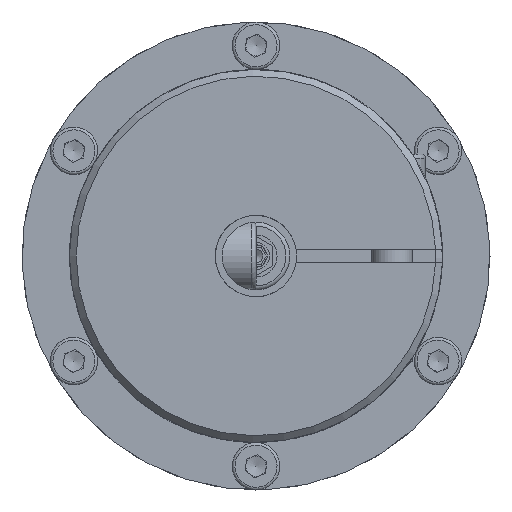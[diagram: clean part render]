
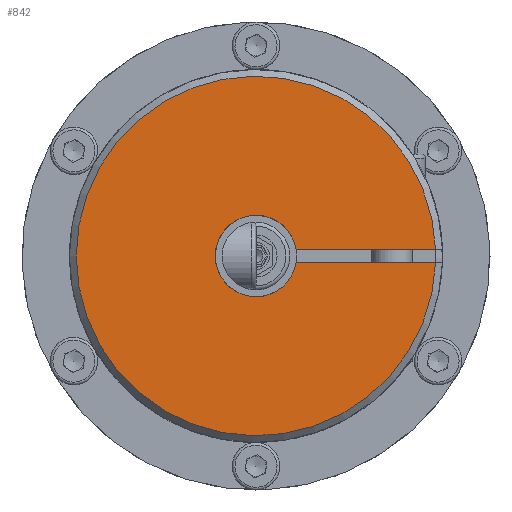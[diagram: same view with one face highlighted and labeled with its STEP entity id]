
A CAD part, left-side view. The second image highlights one B-rep face of the part: STEP entity #842.
In plain terms, the highlighted planar face has unit normal (-1, 0, 0).
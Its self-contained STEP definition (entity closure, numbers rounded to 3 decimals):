
#842 = ADVANCED_FACE( '', ( #1697 ), #1698, .F. );
#1697 = FACE_OUTER_BOUND( '', #2870, .T. );
#1698 = PLANE( '', #2871 );
#2870 = EDGE_LOOP( '', ( #5299, #5300, #5301, #5302 ) );
#2871 = AXIS2_PLACEMENT_3D( '', #5303, #5304, #5305 );
#5299 = ORIENTED_EDGE( '', *, *, #7815, .F. );
#5300 = ORIENTED_EDGE( '', *, *, #7814, .T. );
#5301 = ORIENTED_EDGE( '', *, *, #7721, .F. );
#5302 = ORIENTED_EDGE( '', *, *, #7724, .F. );
#5303 = CARTESIAN_POINT( '', ( -30., 0., 26.5 ) );
#5304 = DIRECTION( '', ( 1., 0., 0. ) );
#5305 = DIRECTION( '', ( 0., 0., -1. ) );
#7721 = EDGE_CURVE( '', #9255, #9257, #9258, .T. );
#7724 = EDGE_CURVE( '', #9260, #9255, #9263, .T. );
#7814 = EDGE_CURVE( '', #9408, #9257, #9410, .T. );
#7815 = EDGE_CURVE( '', #9408, #9260, #9411, .T. );
#9255 = VERTEX_POINT( '', #13164 );
#9257 = VERTEX_POINT( '', #13167 );
#9258 = LINE( '', #13168, #13169 );
#9260 = VERTEX_POINT( '', #13174 );
#9263 = CIRCLE( '', #13178, 6. );
#9408 = VERTEX_POINT( '', #13412 );
#9410 = CIRCLE( '', #13417, 26.5 );
#9411 = LINE( '', #13418, #13419 );
#13164 = CARTESIAN_POINT( '', ( -30., -5.083, -3.188 ) );
#13167 = CARTESIAN_POINT( '', ( -30., -24.083, -11.058 ) );
#13168 = CARTESIAN_POINT( '', ( -30., 9.752, 2.957 ) );
#13169 = VECTOR( '', #15699, 1000. );
#13174 = CARTESIAN_POINT( '', ( -30., -5.848, -1.34 ) );
#13178 = AXIS2_PLACEMENT_3D( '', #15701, #15702, #15703 );
#13412 = CARTESIAN_POINT( '', ( -30., -24.848, -9.21 ) );
#13417 = AXIS2_PLACEMENT_3D( '', #15870, #15871, #15872 );
#13418 = CARTESIAN_POINT( '', ( -30., 8.986, 4.805 ) );
#13419 = VECTOR( '', #15873, 1000. );
#15699 = DIRECTION( '', ( 0., -0.924, -0.383 ) );
#15701 = CARTESIAN_POINT( '', ( -30., 0., 0. ) );
#15702 = DIRECTION( '', ( -1., 0., 0. ) );
#15703 = DIRECTION( '', ( 0., 0., 1. ) );
#15870 = CARTESIAN_POINT( '', ( -30., 0., 0. ) );
#15871 = DIRECTION( '', ( -1., 0., 0. ) );
#15872 = DIRECTION( '', ( 0., 0., 1. ) );
#15873 = DIRECTION( '', ( 0., 0.924, 0.383 ) );
